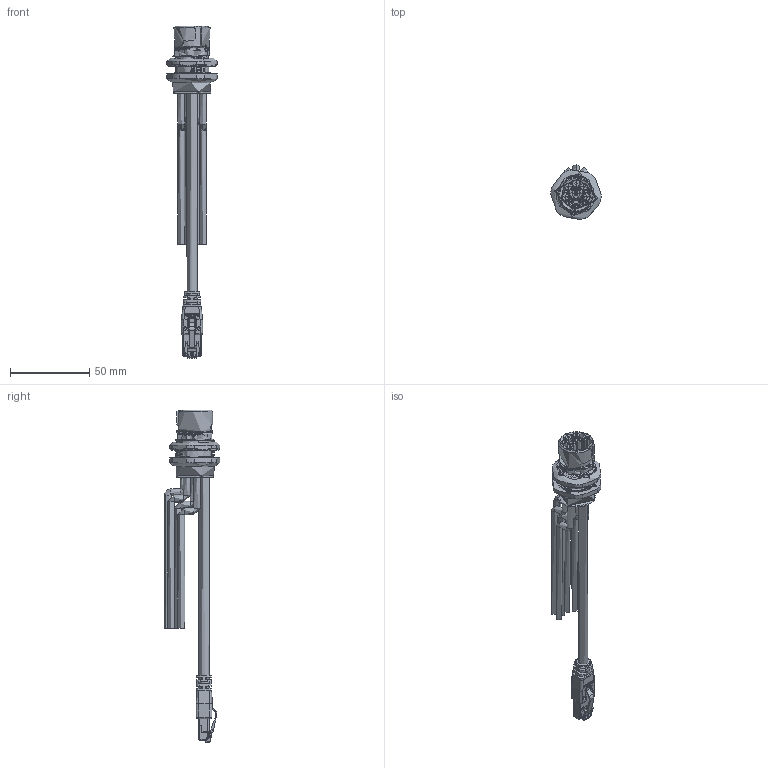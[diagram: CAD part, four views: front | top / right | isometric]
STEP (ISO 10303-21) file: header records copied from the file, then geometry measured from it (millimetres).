
FILE_DESCRIPTION(/* description */ (''),/* implementation_level */ '2;1');
FILE_NAME(/* name */ 'ZK7A55-CW00-Axxx.stp',/* time_stamp */ '2026-05-15T15:10:09+02:00',/* author */ ('JoshuaW'),/* organization */ (''),/* preprocessor_version */ 'ST-DEVELOPER v20.1',/* originating_system */ 'Autodesk Inventor 2026',/* authorisation */ '');
FILE_SCHEMA (('AUTOMOTIVE_DESIGN { 1 0 10303 214 3 1 1 }'));
Length unit declared in the file: millimetre
Products named in the file (1): 0000036997_ZK7A55-CW00-Axxx_web
Bounding box: 32 x 34.99 x 209.95 mm (x, y, z)
Volume: 35801.1 mm3; surface area: 32346.7 mm2
Topology: 1 solids, 7 shells, 3429 faces, 9358 edges, 5883 vertices
Faces by surface type: plane 1632, cylinder 830, torus 388, bspline 327, cone 215, sphere 37
Full cylindrical faces by diameter (mm): 0.8 x4, 1 x4, 1.4 x1, 1.6 x1, 1.76 x1, 1.95 x7, 2 x7, 2.6 x7, 2.75 x7, 3 x1, 4.4 x18, 6.5 x1, 6.9 x1, 8 x1, 19.85 x1, 21 x2, 21.2 x1, 21.7 x2, 23 x2, 23.2 x1, 23.8 x1, 24.6 x1, 25 x3, 28.1 x1, 28.6 x1
Entity records: 126558 total; most frequent: CARTESIAN_POINT 38356, ORIENTED_EDGE 18554, DIRECTION 17096, EDGE_CURVE 9277, AXIS2_PLACEMENT_3D 6045, VERTEX_POINT 5883, LINE 5006, VECTOR 5006
